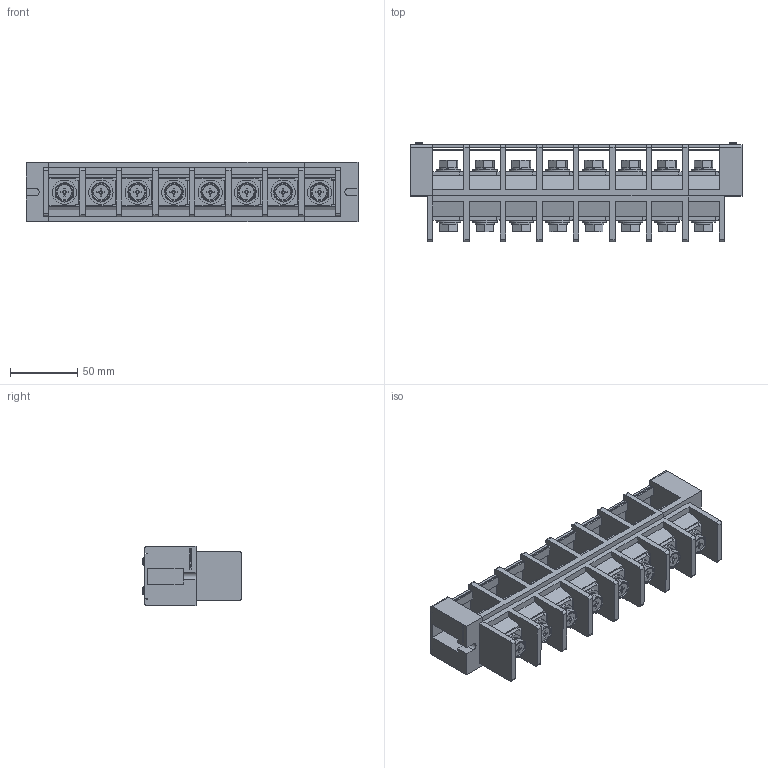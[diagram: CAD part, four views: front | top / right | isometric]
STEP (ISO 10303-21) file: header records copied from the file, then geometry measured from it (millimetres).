
FILE_DESCRIPTION(/* description */ ('Alibre Inc.'),/* implementation_level */ '2;1');
FILE_NAME(/* name */ 'export0',/* time_stamp */ '2016-04-05T18:43:51+09:00',/* author */ (''),/* organization */ (''),/* preprocessor_version */ 'ST-DEVELOPER v14',/* originating_system */ 'Alibre',/* authorisation */ '');
FILE_SCHEMA (('CONFIG_CONTROL_DESIGN'));
Length unit declared in the file: centimetre
Products named in the file (1): ID_1
Bounding box: 246 x 73.94 x 44.24 mm (x, y, z)
Volume: 289974.1 mm3; surface area: 132307.8 mm2
Topology: 1 solids, 3 shells, 1550 faces, 4235 edges, 2736 vertices
Faces by surface type: plane 1166, cone 200, cylinder 128, bspline 52, sphere 2, torus 2
Full cylindrical faces by diameter (mm): 3 x4, 5.5 x2, 8 x16, 18 x16
Entity records: 43816 total; most frequent: CARTESIAN_POINT 8602, ORIENTED_EDGE 8290, DIRECTION 5577, EDGE_CURVE 4145, VERTEX_POINT 2718, VECTOR 2679, LINE 2679, AXIS2_PLACEMENT_3D 1925
